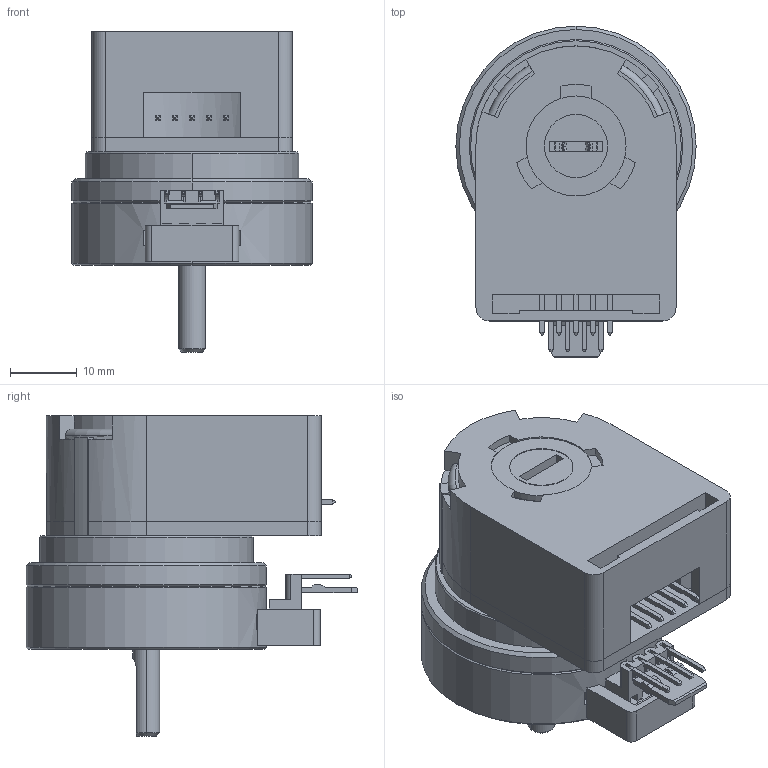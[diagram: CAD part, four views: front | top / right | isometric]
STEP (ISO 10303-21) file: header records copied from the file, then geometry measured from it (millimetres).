
FILE_DESCRIPTION (( 'STEP AP214' ), '1' );
FILE_NAME ('USR30_E3_2012.STEP', '2012-09-20T01:22:21', ( '' ), ( '' ), 'SwSTEP 2.0', 'SolidWorks 2012', '' );
FILE_SCHEMA (( 'AUTOMOTIVE_DESIGN' ));
Length unit declared in the file: millimetre
Products named in the file (1): USR30_E3_2012
Bounding box: 36 x 49.7 x 48 mm (x, y, z)
Surface area: 13204.5 mm2 (no closed solid volume)
Topology: 0 solids, 28 shells, 420 faces, 1303 edges, 905 vertices
Faces by surface type: plane 271, cylinder 84, cone 51, bspline 12, torus 2
Entity records: 19330 total; most frequent: CARTESIAN_POINT 3104, DIRECTION 2412, ORIENTED_EDGE 2214, EDGE_CURVE 1303, VERTEX_POINT 905, VECTOR 858, LINE 858, AXIS2_PLACEMENT_3D 777
